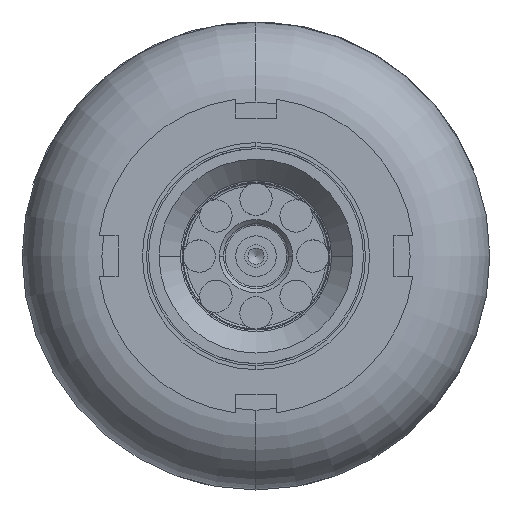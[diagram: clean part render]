
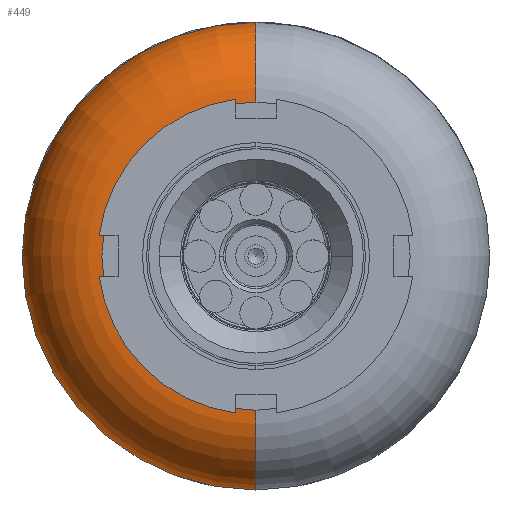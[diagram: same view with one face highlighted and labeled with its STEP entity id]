
A CAD part, front view. The second image highlights one B-rep face of the part: STEP entity #449.
In plain terms, the highlighted toroidal (fillet/blend) face has major radius 18.835 mm and minor radius 10 mm.
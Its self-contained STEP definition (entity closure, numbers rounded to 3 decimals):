
#371=CARTESIAN_POINT('',(90.25,0.0,-28.835));
#372=VERTEX_POINT('',#371);
#380=CARTESIAN_POINT('',(90.25,-28.835,0.));
#381=VERTEX_POINT('',#380);
#382=CARTESIAN_POINT('',(90.25,0.0,0.0));
#383=DIRECTION('',(1.0,0.0,0.0));
#384=DIRECTION('',(0.0,1.0,0.0));
#385=AXIS2_PLACEMENT_3D('',#382,#383,#384);
#386=CIRCLE('',#385,28.835);
#387=EDGE_CURVE('',#381,#372,#386,.T.);
#407=CARTESIAN_POINT('',(90.25,0.0,0.0));
#408=DIRECTION('',(1.0,0.0,0.0));
#409=DIRECTION('',(0.0,0.0,-1.0));
#410=AXIS2_PLACEMENT_3D('',#407,#408,#409);
#411=TOROIDAL_SURFACE('',#410,18.835,10.0);
#412=CARTESIAN_POINT('',(100.249,0.0,-19.0));
#413=VERTEX_POINT('',#412);
#414=CARTESIAN_POINT('',(90.25,0.0,-18.835));
#415=DIRECTION('',(0.0,1.0,0.0));
#416=DIRECTION('',(0.0,0.0,-1.0));
#417=AXIS2_PLACEMENT_3D('',#414,#415,#416);
#418=CIRCLE('',#417,10.0);
#419=EDGE_CURVE('',#413,#372,#418,.T.);
#420=ORIENTED_EDGE('',*,*,#419,.F.);
#421=CARTESIAN_POINT('',(100.249,0.,19.0));
#422=VERTEX_POINT('',#421);
#423=CARTESIAN_POINT('',(100.249,0.0,0.0));
#424=DIRECTION('',(1.0,0.0,0.0));
#425=DIRECTION('',(0.0,1.0,0.0));
#426=AXIS2_PLACEMENT_3D('',#423,#424,#425);
#427=CIRCLE('',#426,19.0);
#428=EDGE_CURVE('',#422,#413,#427,.T.);
#429=ORIENTED_EDGE('',*,*,#428,.F.);
#430=CARTESIAN_POINT('',(90.25,0.,28.835));
#431=VERTEX_POINT('',#430);
#432=CARTESIAN_POINT('',(90.25,0.,18.835));
#433=DIRECTION('',(0.0,-1.0,0.0));
#434=DIRECTION('',(0.0,0.0,1.0));
#435=AXIS2_PLACEMENT_3D('',#432,#433,#434);
#436=CIRCLE('',#435,10.0);
#437=EDGE_CURVE('',#422,#431,#436,.T.);
#438=ORIENTED_EDGE('',*,*,#437,.T.);
#439=CARTESIAN_POINT('',(90.25,0.0,0.0));
#440=DIRECTION('',(1.0,0.0,0.0));
#441=DIRECTION('',(0.0,1.0,0.0));
#442=AXIS2_PLACEMENT_3D('',#439,#440,#441);
#443=CIRCLE('',#442,28.835);
#444=EDGE_CURVE('',#431,#381,#443,.T.);
#445=ORIENTED_EDGE('',*,*,#444,.T.);
#446=ORIENTED_EDGE('',*,*,#387,.T.);
#447=EDGE_LOOP('',(#420,#429,#438,#445,#446));
#448=FACE_OUTER_BOUND('',#447,.T.);
#449=ADVANCED_FACE('',(#448),#411,.T.);
